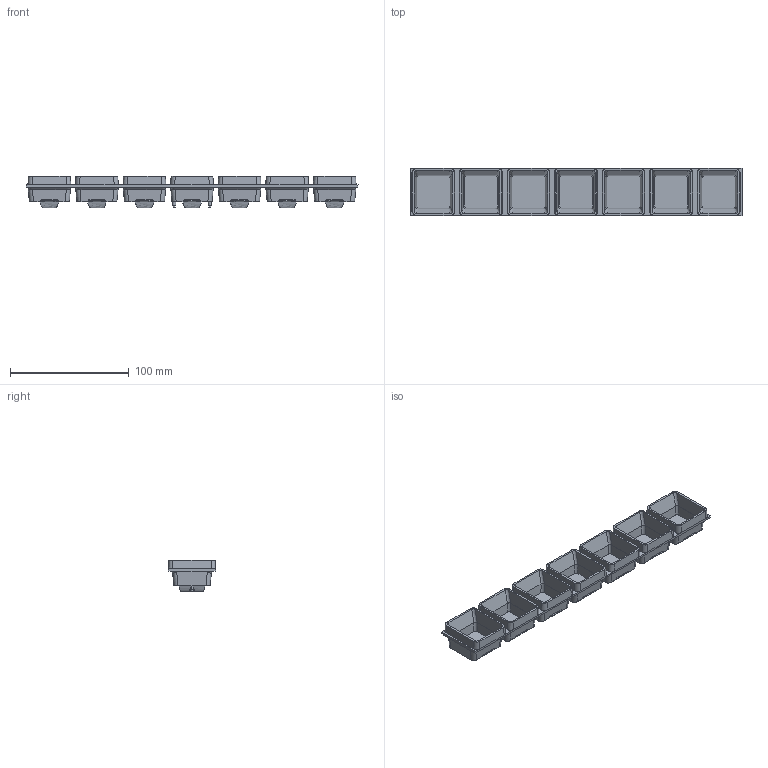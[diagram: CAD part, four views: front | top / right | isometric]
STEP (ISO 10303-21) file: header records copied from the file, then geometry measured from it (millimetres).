
FILE_DESCRIPTION(('Creo Elements/Direct Modeling STEP Export'),'2;1');
FILE_NAME('91552.stp','2026-06-11T 9:18:41',(''),(''),'Creo Elements/Direct Modeling STEP processor for AP214 (Solid Model)','Creo Elements/Direct Modeling 20.8 17-May-2025 (C) Parametric Technology GmbH','');
FILE_SCHEMA(('AUTOMOTIVE_DESIGN { 1 0 10303 214 1 1 1 1 }'));
Products named in the file (2): 91552
Assembly tree (1 placements, depth 2):
  91552
    91552
Bounding box: 279.25 x 40 x 26.85 mm (x, y, z)
Volume: 69207.4 mm3; surface area: 56913 mm2
Topology: 1 solids, 1 shells, 553 faces, 1468 edges, 956 vertices
Faces by surface type: plane 285, cylinder 174, bspline 58, cone 36
Entity records: 45844 total; most frequent: CARTESIAN_POINT 27993, ORIENTED_EDGE 2936, DIRECTION 2605, EDGE_CURVE 1468, VERTEX_POINT 956, AXIS2_PLACEMENT_3D 932, VECTOR 741, LINE 741
